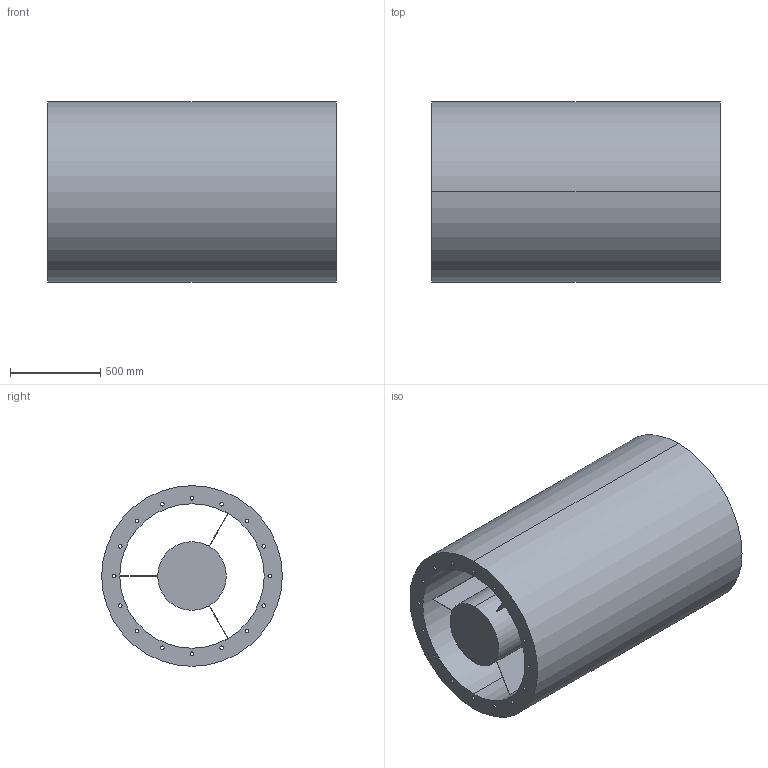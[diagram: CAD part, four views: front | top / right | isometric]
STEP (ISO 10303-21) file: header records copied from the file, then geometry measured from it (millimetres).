
FILE_DESCRIPTION(('STEP AP214'),'1');
FILE_NAME('accessory_5211815400.stp','2017-10-09T11:37:16',('TraceParts'),('TraceParts S.A.'),'Spatial InterOp 3D',' ',' ');
FILE_SCHEMA(('automotive_design'));
Length unit declared in the file: millimetre
Products named in the file (1): accessory_5211815400
Bounding box: 1600 x 1000 x 1000 mm (x, y, z)
Volume: 610927043.1 mm3; surface area: 14700168.7 mm2
Topology: 1 solids, 1 shells, 56 faces, 155 edges, 103 vertices
Faces by surface type: cylinder 38, plane 16, torus 2
Entity records: 2384 total; most frequent: DIRECTION 362, CARTESIAN_POINT 315, ORIENTED_EDGE 310, EDGE_CURVE 155, AXIS2_PLACEMENT_3D 150, VERTEX_POINT 103, EDGE_LOOP 96, CIRCLE 93
